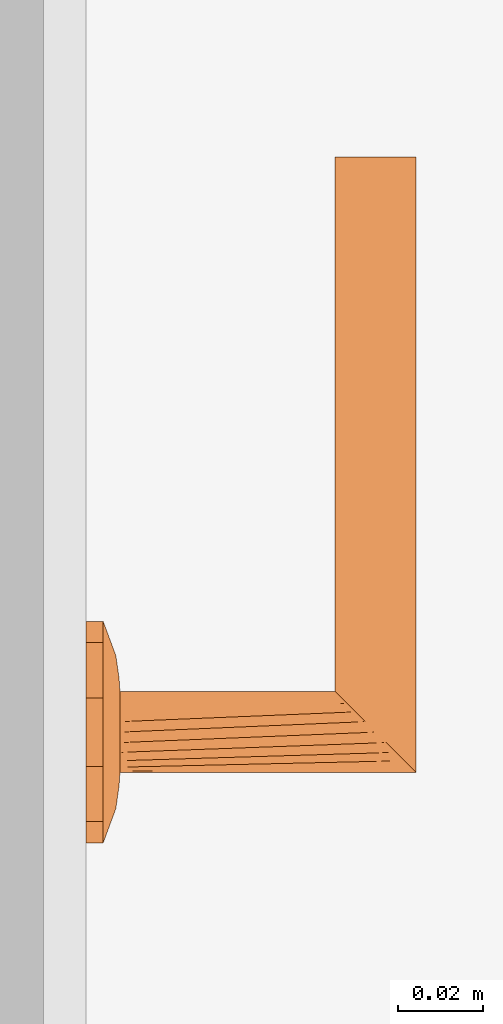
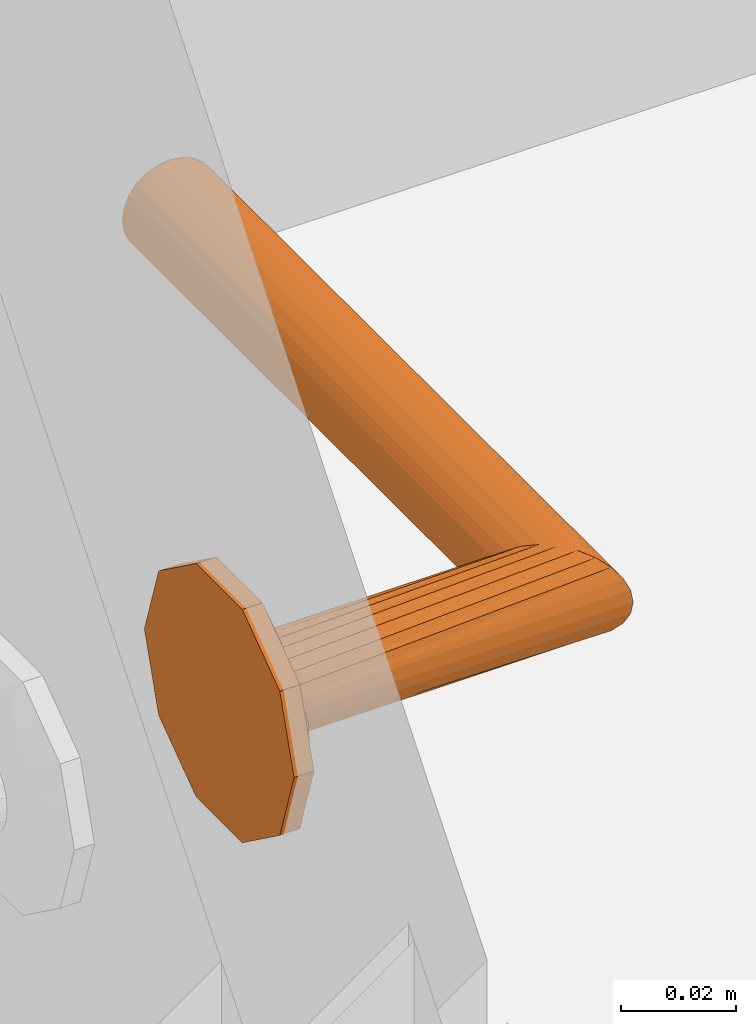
# One storey, part 68 of 68: 1 proxy.
"""IFC2X3 building model written with IfcOpenShell, lengths in millimetres."""

from ifc_helpers import new_model, entity, si_unit, converted_unit, direction, frame, origin, place, context, subcontext, project, spatial, faceted_brep, source, transform, mapped, material, type_object, type_shapes, element, save


model = new_model("IFC2X3")

# Units and contexts
model_context = context("Model", 3, precision=0.01, world=origin(), true_north=direction((6.123233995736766e-17, 1.0)))
plan_context = context("Plan", 3, precision=0.01, world=origin(), true_north=direction((6.123233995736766e-17, 1.0)))
body_context = subcontext(model_context, "Body", "Model", "MODEL_VIEW")
ifc_project = project(units=[si_unit("LENGTHUNIT", "METRE", prefix="MILLI"), converted_unit("PLANEANGLEUNIT", "DEGREE", entity("IfcPlaneAngleMeasure", 0.017453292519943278), si_unit("PLANEANGLEUNIT", "RADIAN"), dimensions=[0, 0, 0, 0, 0, 0, 0]), si_unit("AREAUNIT", "SQUARE_METRE")], contexts=[model_context, plan_context])

# Site, building, storey, space
site_placement = place(None, origin())
site = spatial("IfcSite", under=ifc_project, at=site_placement, Name="Default", CompositionType="ELEMENT")
building_placement = place(site_placement, origin())
building = spatial("IfcBuilding", under=site, at=building_placement, CompositionType="ELEMENT")
storey_placement = place(building_placement, frame((0.0, 0.0, 6295.0)))
storey = spatial("IfcBuildingStorey", under=building, at=storey_placement, Name="3K", CompositionType="ELEMENT", Elevation=6294.999999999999)
space_placement = place(storey_placement, origin())
space = spatial("IfcSpace", under=storey, at=space_placement, Name="3-7.3", CompositionType="ELEMENT", InteriorOrExteriorSpace="INTERNAL")

# Proxy
ifc_material = material(Name="<Unnamed>")
building_element_proxy_type = type_object("IfcBuildingElementProxyType", Name="Door-handle_Lever_ABLOY_INOXI_3-19ss-002_RT:Default", PredefinedType="NOTDEFINED", material=ifc_material)
shared_shape = source(origin(), body_context, "Body", "Brep", [
    faceted_brep([(0.0, 0.0, 0.0), (8.034441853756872, 24.72746942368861, 0.0), (14.534441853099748, 20.00494299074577, 0.0), (21.034441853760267, 15.282416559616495, 0.0), (23.51722092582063, 7.641208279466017, 0.0), (26.0, 0.0, 0.0), (23.517220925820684, -7.641208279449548, 0.0), (0.0, 24.72746942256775, 0.0), (-8.034441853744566, 24.727469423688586, 0.0), (-14.534441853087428, 20.00494299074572, 0.0), (-21.03444185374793, 15.282416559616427, 0.0), (-23.517220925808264, 7.641208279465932, 0.0), (-26.0, 0.0, 0.0), (21.034441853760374, -15.282416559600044, 0.0), (14.534441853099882, -20.004942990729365, 0.0), (8.034441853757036, -24.72746942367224, 0.0), (0.0, -24.72746942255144, 0.0), (-23.517220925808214, -7.641208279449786, 0.0), (-21.034441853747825, -15.282416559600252, 0.0), (-14.53444185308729, -20.004942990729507, 0.0), (-8.0344418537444, -24.72746942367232, 0.0), (0.0, 0.0, 8.0), (9.500000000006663, 0.0, 8.0), (8.312500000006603, 2.056810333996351, 8.0), (7.125000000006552, 4.113620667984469, 8.0), (5.937500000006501, 6.170431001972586, 8.0), (4.7500000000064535, 8.227241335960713, 8.0), (2.375000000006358, 8.2272413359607, 8.0), (0.0, 8.227241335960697, 8.0), (-2.3749999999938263, 8.227241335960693, 8.0), (-4.749999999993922, 8.227241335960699, 8.0), (-5.937499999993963, 6.1704310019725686, 8.0), (-7.124999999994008, 4.1136206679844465, 8.0), (-8.312499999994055, 2.0568103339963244, 8.0), (-9.499999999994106, 0.0, 8.0), (-8.31249999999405, -2.0568103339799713, 8.0), (8.312500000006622, -2.0568103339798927, 8.0), (7.125000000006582, -4.113620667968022, 8.0), (5.937500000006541, -6.170431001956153, 8.0), (4.750000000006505, -8.227241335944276, 8.0), (-7.124999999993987, -4.113620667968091, 8.0), (-5.9374999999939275, -6.17043100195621, 8.0), (-4.74999999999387, -8.227241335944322, 8.0), (-2.374999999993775, -8.227241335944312, 8.0), (0.0, -8.227241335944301, 8.0), (2.3750000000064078, -8.227241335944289, 8.0), (-20.6430713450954, 6.292822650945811, 5.929480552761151), (-16.663919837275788, 7.932665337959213, 6.877259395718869), (-22.48876527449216, 10.806469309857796, 4.030771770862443), (-16.764060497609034, 3.8202578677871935, 7.1747985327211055), (-12.504579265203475, 5.179566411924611, 7.774932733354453), (-11.979136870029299, 13.678312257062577, 6.945778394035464), (-11.963426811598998, 8.62529041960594, 7.618343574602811), (-9.07172672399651, 10.31160661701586, 7.7520782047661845), (8.03444185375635, 24.727469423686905, 4.030771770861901), (0.0, 24.72746942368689, 4.030771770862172), (5.758554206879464, 20.96753300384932, 5.871476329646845), (20.643071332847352, 6.292822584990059, 5.929480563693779), (22.488765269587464, 10.806469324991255, 4.03077177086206), (16.66391982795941, 7.9326653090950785, 6.877259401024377), (9.49943163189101, 18.6436835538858, 6.154325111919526), (14.534441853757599, 20.004942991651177, 4.030771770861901), (-14.534441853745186, 20.00494299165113, 4.030771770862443), (-21.034441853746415, 15.282416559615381, 4.030771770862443), (-15.783149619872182, 11.991003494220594, 6.50080018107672), (-23.943088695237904, 6.330522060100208, 4.030771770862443), (-23.012042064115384, 0.0, 5.135401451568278), (12.50457924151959, 5.179566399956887, 7.774932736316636), (11.963426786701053, 8.625290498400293, 7.618343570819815), (16.76406041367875, 3.820257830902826, 7.17479855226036), (15.783149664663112, 11.991003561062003, 6.50080015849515), (23.01204200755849, 0.0, 5.135401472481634), (17.9853516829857, 0.0, 6.993737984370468), (8.661516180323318, 10.478936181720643, 7.768126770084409), (-3.3573143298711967, 21.197247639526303, 5.971427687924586), (-8.03444185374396, 24.727469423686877, 4.030771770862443), (-7.711266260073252, 12.76034452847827, 7.594456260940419), (-5.97325794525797, 16.43013906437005, 7.110979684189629), (-9.94191586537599, 17.061976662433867, 6.522757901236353), (11.979136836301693, 13.678312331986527, 6.945778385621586), (5.953298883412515, 16.50608604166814, 7.096344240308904), (7.511307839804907, 13.358932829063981, 7.529187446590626), (-1.5654593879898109, 15.307443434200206, 7.519134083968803), (-7.784980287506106, 20.476295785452, 5.812837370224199), (2.8135289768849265, 17.763922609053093, 6.993737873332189), (-17.985351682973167, 0.0, 6.993737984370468), (-26.0, 0.0, 4.030771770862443), (-23.51722092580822, 7.641208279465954, 4.030771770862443), (26.0, 0.0, 4.030771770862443), (24.308823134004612, 5.204907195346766, 4.030771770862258), (23.943088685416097, 6.330522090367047, 4.030771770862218), (21.03444185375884, 15.282416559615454, 4.030771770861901), (22.617646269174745, 10.40981439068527, 4.030771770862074), (20.6430713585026, -6.292822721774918, 5.929480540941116), (16.663919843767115, -7.932665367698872, 6.877259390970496), (22.48876527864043, -10.8064692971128, 4.030771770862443), (16.764060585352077, -3.8202579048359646, 7.174798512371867), (12.504579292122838, -5.17956641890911, 7.774932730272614), (11.979136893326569, -13.678312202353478, 6.9457784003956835), (11.963426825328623, -8.62529034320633, 7.618343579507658), (9.071726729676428, -10.311606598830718, 7.752078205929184), (-8.03444185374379, -24.727469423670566, 4.030771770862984), (0.0, -24.727469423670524, 4.030771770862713), (-5.758554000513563, -20.96753314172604, 5.8714763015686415), (-20.643071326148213, -6.292822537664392, 5.929480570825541), (-22.488765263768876, -10.80646934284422, 4.030771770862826), (-16.66391981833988, -7.932665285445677, 6.877259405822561), (-9.499431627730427, -18.643683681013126, 6.154325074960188), (-14.534441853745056, -20.004942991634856, 4.030771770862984), (14.53444185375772, -20.00494299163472, 4.030771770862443), (21.034441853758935, -15.282416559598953, 4.030771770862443), (15.783149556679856, -11.991003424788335, 6.5008002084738), (23.943088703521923, -6.330522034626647, 4.030771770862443), (-12.504579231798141, -5.17956638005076, 7.77493273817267), (-11.963426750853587, -8.625290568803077, 7.618343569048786), (-16.764060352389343, -3.8202577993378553, 7.174798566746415), (-15.783149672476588, -11.991003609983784, 6.500800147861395), (-8.661516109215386, -10.478936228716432, 7.768126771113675), (3.3573144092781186, -21.197247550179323, 5.971427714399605), (8.034441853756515, -24.727469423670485, 4.030771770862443), (7.711266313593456, -12.760344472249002, 7.5944562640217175), (5.9732581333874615, -16.430139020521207, 7.110979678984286), (9.941915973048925, -17.06197655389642, 6.522757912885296), (-11.979136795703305, -13.678312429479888, 6.945778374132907), (-5.953298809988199, -16.506086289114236, 7.096344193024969), (-7.511307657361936, -13.358932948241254, 7.5291874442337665), (1.5654596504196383, -15.3074431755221, 7.519134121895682), (7.784980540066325, -20.476295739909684, 5.812837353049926), (-2.81352881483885, -17.76392263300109, 6.993737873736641), (23.517220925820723, -7.64120827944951, 4.030771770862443), (-24.308823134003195, -5.20490719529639, 4.030771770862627), (-23.943088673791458, -6.330522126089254, 4.030771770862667), (-21.034441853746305, -15.282416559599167, 4.030771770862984), (-22.617646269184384, -10.409814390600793, 4.0307717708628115)], [[[0, 1, 2]], [[0, 2, 3]], [[0, 3, 4]], [[0, 4, 5]], [[0, 5, 6]], [[0, 7, 1]], [[0, 8, 7]], [[0, 9, 8]], [[0, 10, 9]], [[0, 11, 10]], [[0, 12, 11]], [[0, 6, 13]], [[0, 13, 14]], [[0, 14, 15]], [[0, 15, 16]], [[0, 17, 12]], [[0, 18, 17]], [[0, 19, 18]], [[0, 20, 19]], [[0, 16, 20]], [[21, 22, 23]], [[21, 23, 24]], [[21, 24, 25]], [[21, 25, 26]], [[21, 26, 27]], [[21, 27, 28]], [[21, 28, 29]], [[21, 29, 30]], [[21, 30, 31]], [[21, 31, 32]], [[21, 32, 33]], [[21, 33, 34]], [[21, 34, 35]], [[21, 36, 22]], [[21, 37, 36]], [[21, 38, 37]], [[21, 39, 38]], [[21, 35, 40]], [[21, 40, 41]], [[21, 41, 42]], [[21, 42, 43]], [[21, 43, 44]], [[21, 44, 45]], [[21, 45, 39]], [[46, 47, 48]], [[49, 50, 47]], [[33, 32, 50]], [[51, 52, 53]], [[32, 52, 50]], [[49, 47, 46]], [[54, 55, 56]], [[57, 58, 59]], [[60, 61, 54]], [[62, 63, 64]], [[46, 65, 66]], [[67, 59, 68]], [[23, 69, 67]], [[70, 68, 59]], [[23, 22, 69]], [[52, 51, 64]], [[71, 69, 72]], [[73, 25, 68]], [[74, 55, 75]], [[76, 77, 78]], [[70, 61, 79]], [[71, 57, 69]], [[60, 80, 81]], [[51, 76, 78]], [[77, 29, 82]], [[26, 81, 27]], [[74, 83, 77]], [[77, 82, 74]], [[74, 84, 55]], [[34, 49, 85]], [[23, 67, 24]], [[28, 84, 82]], [[74, 82, 84]], [[29, 76, 30]], [[29, 28, 82]], [[49, 34, 33]], [[47, 50, 52]], [[47, 52, 64]], [[50, 49, 33]], [[53, 76, 51]], [[52, 32, 31]], [[49, 66, 85]], [[86, 66, 65]], [[24, 67, 68]], [[83, 78, 77]], [[49, 46, 66]], [[48, 64, 63]], [[46, 48, 87, 65]], [[48, 47, 64]], [[59, 67, 69]], [[26, 73, 81]], [[79, 68, 70]], [[25, 24, 68]], [[71, 88, 89, 90]], [[22, 72, 69]], [[59, 69, 57]], [[79, 61, 60]], [[51, 62, 64]], [[70, 58, 91]], [[90, 57, 71]], [[58, 70, 59]], [[57, 90, 92]], [[79, 60, 81]], [[61, 70, 91]], [[56, 80, 60]], [[79, 81, 73]], [[80, 84, 27]], [[79, 73, 68]], [[27, 84, 28]], [[25, 73, 26]], [[77, 76, 29]], [[31, 30, 53]], [[78, 62, 51]], [[75, 62, 83]], [[78, 83, 62]], [[75, 83, 74]], [[76, 53, 30]], [[31, 53, 52]], [[81, 80, 27]], [[84, 80, 56]], [[84, 56, 55]], [[54, 56, 60]], [[93, 94, 95]], [[96, 97, 94]], [[36, 37, 97]], [[98, 99, 100]], [[37, 99, 97]], [[96, 94, 93]], [[101, 102, 103]], [[104, 105, 106]], [[107, 108, 101]], [[109, 110, 111]], [[93, 112, 71]], [[113, 106, 114]], [[35, 115, 113]], [[116, 114, 106]], [[35, 34, 115]], [[99, 98, 111]], [[66, 115, 85]], [[117, 41, 114]], [[118, 102, 119]], [[120, 121, 122]], [[116, 108, 123]], [[66, 104, 115]], [[107, 124, 125]], [[120, 45, 121]], [[121, 45, 126]], [[42, 125, 43]], [[118, 127, 121]], [[121, 126, 118]], [[118, 128, 102]], [[22, 96, 72]], [[35, 113, 40]], [[44, 128, 126]], [[118, 126, 128]], [[45, 120, 39]], [[45, 44, 126]], [[96, 22, 36]], [[94, 97, 99]], [[94, 99, 111]], [[97, 96, 36]], [[100, 120, 98]], [[99, 37, 38]], [[96, 71, 72]], [[88, 71, 112]], [[40, 113, 114]], [[127, 122, 121]], [[96, 93, 71]], [[95, 111, 110]], [[93, 95, 129, 112]], [[95, 94, 111]], [[106, 113, 115]], [[42, 117, 125]], [[123, 114, 116]], [[41, 40, 114]], [[66, 86, 130, 131]], [[34, 85, 115]], [[106, 115, 104]], [[123, 108, 107]], [[98, 109, 111]], [[116, 105, 132]], [[131, 104, 66]], [[105, 116, 106]], [[104, 131, 133]], [[123, 107, 125]], [[108, 116, 132]], [[103, 124, 107]], [[123, 125, 117]], [[124, 128, 43]], [[123, 117, 114]], [[43, 128, 44]], [[41, 117, 42]], [[38, 39, 100]], [[98, 120, 122]], [[122, 109, 98]], [[119, 109, 127]], [[122, 127, 109]], [[119, 127, 118]], [[120, 100, 39]], [[38, 100, 99]], [[125, 124, 43]], [[128, 124, 103]], [[128, 103, 102]], [[101, 103, 107]], [[9, 10, 63, 62, 75, 8]], [[11, 12, 86, 65, 87, 48, 63, 10]], [[4, 3, 92, 90, 89, 88, 5]], [[3, 91, 58]], [[55, 54, 1, 7, 8, 75]], [[3, 2, 1, 54, 61, 91]], [[13, 6, 5, 88, 112, 129, 95, 110]], [[119, 15, 14, 13, 110, 109]], [[17, 18, 133, 131, 130, 86, 12]], [[18, 132, 105]], [[102, 101, 20, 16, 15, 119]], [[18, 19, 20, 101, 108, 132]], [[57, 92, 58]], [[104, 133, 105]], [[3, 58, 92]], [[18, 105, 133]]]),
    faceted_brep([(0.0, 9.499999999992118, 8.0), (2.4587809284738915, 9.176295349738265, 8.0), (4.7499999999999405, 8.22724133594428, 8.0), (6.717514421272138, 6.7175144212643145, 8.0), (8.227241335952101, 4.749999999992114, 8.0), (9.17629534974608, 2.458780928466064, 8.0), (9.499999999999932, 0.0, 8.0), (9.17629534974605, -2.458780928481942, 8.0), (8.22724133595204, -4.75000000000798, 8.0), (6.717514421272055, -6.717514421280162, 8.0), (4.7499999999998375, -8.227241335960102, 8.0), (2.4587809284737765, -9.176295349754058, 8.0), (0.0, -9.500000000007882, 8.0), (-2.4587809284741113, -9.176295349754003, 8.0), (-4.750000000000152, -8.227241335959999, 8.0), (-6.717514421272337, -6.717514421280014, 8.0), (-8.227241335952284, -4.750000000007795, 8.0), (-9.176295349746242, -2.458780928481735, 8.0), (-9.500000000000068, 0.0, 8.0), (-9.176295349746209, 2.4587809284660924, 8.0), (-8.227241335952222, 4.74999999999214, 8.0), (-6.717514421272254, 6.717514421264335, 8.0), (-4.7500000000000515, 8.227241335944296, 8.0), (-2.4587809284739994, 9.176295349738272, 8.0), (-6.717514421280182, -6.7175144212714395, 61.282485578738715), (-8.227241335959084, -4.7499999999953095, 59.772758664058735), (-9.176295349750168, -2.458780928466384, 58.82370465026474), (-2.4587809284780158, -9.176295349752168, 65.54121907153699), (-4.750000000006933, -8.227241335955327, 63.25000000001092), (-9.500000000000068, 0.0, 58.50000000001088), (0.0, -9.50000000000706, 68.0), (2.4587809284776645, -9.17629534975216, 70.45878092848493), (4.750000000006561, -8.227241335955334, 72.75000000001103), (6.717514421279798, -6.7175144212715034, 74.71751442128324), (9.17629534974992, -2.458780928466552, 77.17629534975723), (8.22724133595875, -4.749999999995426, 76.22724133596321), (9.499999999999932, 0.0, 77.50000000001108), (9.176295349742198, 2.4587809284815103, 77.1762953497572), (8.227241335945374, 4.750000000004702, 76.22724133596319), (4.749999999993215, 8.227241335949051, 72.75000000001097), (6.7175144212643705, 6.717514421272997, 74.7175144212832), (2.4587809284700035, 9.17629534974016, 70.45878092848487), (-2.4587809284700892, 9.176295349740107, 65.54121907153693), (0.0, 9.49999999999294, 68.0), (-6.717514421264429, 6.717514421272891, 61.282485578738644), (-4.749999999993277, 8.227241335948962, 63.250000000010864), (-9.176295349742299, 2.458780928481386, 58.8237046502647), (-8.227241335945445, 4.750000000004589, 59.77275866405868), (-135.0, 9.500000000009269, 68.0), (-135.0, 9.176295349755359, 65.54121907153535), (-135.0, 8.227241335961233, 63.25000000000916), (-135.0, 6.7175144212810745, 61.28248557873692), (-135.0, 4.750000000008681, 59.772758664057), (-135.0, 2.458780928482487, 58.82370465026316), (-135.0, 0.0, 58.50000000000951), (-135.0, -2.458780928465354, 58.823704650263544), (-135.0, -4.749999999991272, 59.772758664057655), (-135.0, -6.717514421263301, 61.28248557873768), (-135.0, -8.227241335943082, 63.250000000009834), (-135.0, -9.17629534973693, 65.54121907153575), (-135.0, -9.499999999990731, 68.0), (-135.0, -9.17629534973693, 70.45878092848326), (-135.0, -8.227241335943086, 72.75000000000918), (-135.0, -6.717514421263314, 74.71751442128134), (-135.0, -4.749999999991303, 76.22724133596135), (-135.0, -2.4587809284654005, 77.17629534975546), (-135.0, 0.0, 77.5000000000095), (-135.0, 2.4587809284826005, 77.17629534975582), (-135.0, 4.750000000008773, 76.22724133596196), (-135.0, 6.717514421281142, 74.71751442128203), (-135.0, 8.227241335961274, 72.75000000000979), (-135.0, 9.176295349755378, 70.4587809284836)], [[[0, 1, 2, 3, 4, 5, 6, 7, 8, 9, 10, 11, 12, 13, 14, 15, 16, 17, 18, 19, 20, 21, 22, 23]], [[15, 24, 25, 16]], [[16, 25, 26, 17]], [[27, 28, 12]], [[12, 28, 13]], [[13, 28, 24]], [[18, 17, 26, 29]], [[24, 15, 14]], [[14, 13, 24]], [[11, 30, 27]], [[31, 9, 32]], [[32, 8, 33]], [[34, 35, 7]], [[7, 35, 33]], [[36, 34, 7, 6]], [[30, 11, 10]], [[11, 27, 12]], [[33, 8, 7]], [[8, 32, 9]], [[31, 10, 9]], [[10, 31, 30]], [[37, 36, 6, 5]], [[37, 5, 38]], [[39, 40, 4]], [[5, 40, 38]], [[41, 39, 3]], [[5, 4, 40]], [[42, 43, 1]], [[2, 1, 43]], [[2, 41, 3]], [[39, 4, 3]], [[2, 43, 41]], [[23, 44, 45]], [[0, 45, 42]], [[19, 18, 29, 46]], [[20, 19, 46, 47]], [[21, 20, 47, 44]], [[23, 22, 44]], [[45, 0, 23]], [[44, 22, 21]], [[1, 0, 42]], [[48, 49, 50, 51, 52, 53, 54, 55, 56, 57, 58, 59, 60, 61, 62, 63, 64, 65, 66, 67, 68, 69, 70, 71]], [[26, 25, 56, 55]], [[29, 26, 55, 54]], [[28, 27, 59, 58]], [[24, 28, 58, 57]], [[25, 24, 57, 56]], [[27, 30, 60, 59]], [[32, 33, 63, 62]], [[31, 32, 62, 61]], [[34, 36, 66, 65]], [[35, 34, 65, 64]], [[33, 35, 64, 63]], [[61, 60, 30, 31]], [[38, 68, 67, 37]], [[37, 67, 66, 36]], [[41, 71, 70, 39]], [[39, 70, 69, 40]], [[40, 69, 68, 38]], [[48, 71, 41, 43]], [[44, 51, 50, 45]], [[45, 50, 49, 42]], [[29, 54, 53, 46]], [[46, 53, 52, 47]], [[47, 52, 51, 44]], [[42, 49, 48, 43]]]),
])
type_shapes(building_element_proxy_type, [shared_shape])
proxy_placement = place(space_placement, frame((13482.0, 10468.0, 1000.0), z_axis=(1.0, 0.0, 0.0), x_axis=(0.0, -1.0, 0.0)))
element("IfcBuildingElementProxy", 1, at=proxy_placement, inside=space, type_object=building_element_proxy_type, material=ifc_material, Name="Door-handle_Lever_ABLOY_INOXI_3-19ss-002_RT:Default", ObjectType="Door-handle_Lever_ABLOY_INOXI_3-19ss-002_RT:Default", context=body_context, shape_type="MappedRepresentation", body=[
    mapped(shared_shape, transform((0.0, 0.0, 0.0), scale=1.0)),
])

save(model, "model.ifc")
